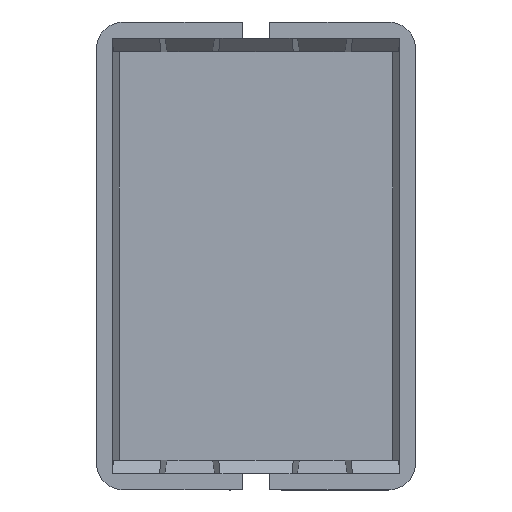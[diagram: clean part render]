
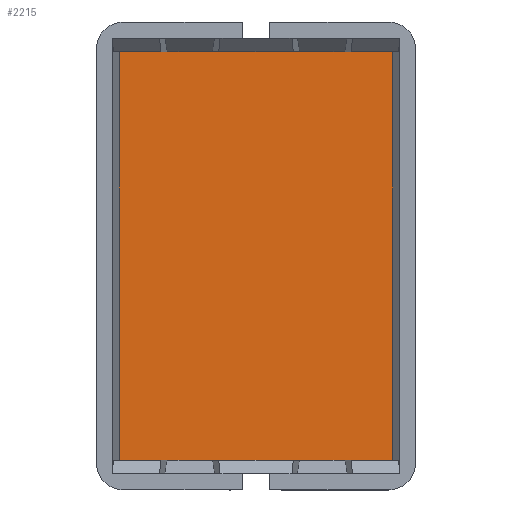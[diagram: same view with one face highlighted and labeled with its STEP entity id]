
A CAD part, top view. The second image highlights one B-rep face of the part: STEP entity #2215.
In plain terms, the highlighted planar face has unit normal (0, 0, 1).
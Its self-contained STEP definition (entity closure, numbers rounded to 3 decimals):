
#2057=CARTESIAN_POINT('',(6.6,-15.1,1.4));
#2058=VERTEX_POINT('',#2057);
#2067=CARTESIAN_POINT('',(3.2,-15.1,1.4));
#2068=VERTEX_POINT('',#2067);
#2069=CARTESIAN_POINT('',(6.6,-15.1,1.4));
#2070=DIRECTION('',(-1.0,0.0,0.0));
#2071=VECTOR('',#2070,3.4);
#2072=LINE('',#2069,#2071);
#2073=EDGE_CURVE('',#2058,#2068,#2072,.T.);
#2121=CARTESIAN_POINT('',(0.,0.,1.4));
#2122=DIRECTION('',(0.0,0.0,1.0));
#2123=DIRECTION('',(1.0,0.0,0.0));
#2124=AXIS2_PLACEMENT_3D('',#2121,#2122,#2123);
#2125=PLANE('',#2124);
#2126=ORIENTED_EDGE('',*,*,#2073,.F.);
#2127=CARTESIAN_POINT('',(10.1,-15.1,1.4));
#2128=VERTEX_POINT('',#2127);
#2129=CARTESIAN_POINT('',(6.6,-15.1,1.4));
#2130=DIRECTION('',(1.0,0.0,0.0));
#2131=VECTOR('',#2130,3.5);
#2132=LINE('',#2129,#2131);
#2133=EDGE_CURVE('',#2058,#2128,#2132,.T.);
#2134=ORIENTED_EDGE('',*,*,#2133,.T.);
#2135=CARTESIAN_POINT('',(10.1,15.1,1.4));
#2136=VERTEX_POINT('',#2135);
#2137=CARTESIAN_POINT('',(10.1,-15.1,1.4));
#2138=DIRECTION('',(0.0,1.0,0.0));
#2139=VECTOR('',#2138,30.2);
#2140=LINE('',#2137,#2139);
#2141=EDGE_CURVE('',#2128,#2136,#2140,.T.);
#2142=ORIENTED_EDGE('',*,*,#2141,.T.);
#2143=CARTESIAN_POINT('',(6.6,15.1,1.4));
#2144=VERTEX_POINT('',#2143);
#2145=CARTESIAN_POINT('',(10.1,15.1,1.4));
#2146=DIRECTION('',(-1.0,0.0,0.0));
#2147=VECTOR('',#2146,3.5);
#2148=LINE('',#2145,#2147);
#2149=EDGE_CURVE('',#2136,#2144,#2148,.T.);
#2150=ORIENTED_EDGE('',*,*,#2149,.T.);
#2151=CARTESIAN_POINT('',(3.2,15.1,1.4));
#2152=VERTEX_POINT('',#2151);
#2153=CARTESIAN_POINT('',(3.2,15.1,1.4));
#2154=DIRECTION('',(1.0,0.0,0.0));
#2155=VECTOR('',#2154,3.4);
#2156=LINE('',#2153,#2155);
#2157=EDGE_CURVE('',#2152,#2144,#2156,.T.);
#2158=ORIENTED_EDGE('',*,*,#2157,.F.);
#2159=CARTESIAN_POINT('',(-3.2,15.1,1.4));
#2160=VERTEX_POINT('',#2159);
#2161=CARTESIAN_POINT('',(3.2,15.1,1.4));
#2162=DIRECTION('',(-1.0,0.0,0.0));
#2163=VECTOR('',#2162,6.4);
#2164=LINE('',#2161,#2163);
#2165=EDGE_CURVE('',#2152,#2160,#2164,.T.);
#2166=ORIENTED_EDGE('',*,*,#2165,.T.);
#2167=CARTESIAN_POINT('',(-6.6,15.1,1.4));
#2168=VERTEX_POINT('',#2167);
#2169=CARTESIAN_POINT('',(-6.6,15.1,1.4));
#2170=DIRECTION('',(1.0,0.0,0.0));
#2171=VECTOR('',#2170,3.4);
#2172=LINE('',#2169,#2171);
#2173=EDGE_CURVE('',#2168,#2160,#2172,.T.);
#2174=ORIENTED_EDGE('',*,*,#2173,.F.);
#2175=CARTESIAN_POINT('',(-10.1,15.1,1.4));
#2176=VERTEX_POINT('',#2175);
#2177=CARTESIAN_POINT('',(-6.6,15.1,1.4));
#2178=DIRECTION('',(-1.0,0.0,0.0));
#2179=VECTOR('',#2178,3.5);
#2180=LINE('',#2177,#2179);
#2181=EDGE_CURVE('',#2168,#2176,#2180,.T.);
#2182=ORIENTED_EDGE('',*,*,#2181,.T.);
#2183=CARTESIAN_POINT('',(-10.1,-15.1,1.4));
#2184=VERTEX_POINT('',#2183);
#2185=CARTESIAN_POINT('',(-10.1,15.1,1.4));
#2186=DIRECTION('',(0.0,-1.0,0.0));
#2187=VECTOR('',#2186,30.2);
#2188=LINE('',#2185,#2187);
#2189=EDGE_CURVE('',#2176,#2184,#2188,.T.);
#2190=ORIENTED_EDGE('',*,*,#2189,.T.);
#2191=CARTESIAN_POINT('',(-6.6,-15.1,1.4));
#2192=VERTEX_POINT('',#2191);
#2193=CARTESIAN_POINT('',(-10.1,-15.1,1.4));
#2194=DIRECTION('',(1.0,0.0,0.0));
#2195=VECTOR('',#2194,3.5);
#2196=LINE('',#2193,#2195);
#2197=EDGE_CURVE('',#2184,#2192,#2196,.T.);
#2198=ORIENTED_EDGE('',*,*,#2197,.T.);
#2199=CARTESIAN_POINT('',(-3.2,-15.1,1.4));
#2200=VERTEX_POINT('',#2199);
#2201=CARTESIAN_POINT('',(-3.2,-15.1,1.4));
#2202=DIRECTION('',(-1.0,0.0,0.0));
#2203=VECTOR('',#2202,3.4);
#2204=LINE('',#2201,#2203);
#2205=EDGE_CURVE('',#2200,#2192,#2204,.T.);
#2206=ORIENTED_EDGE('',*,*,#2205,.F.);
#2207=CARTESIAN_POINT('',(-3.2,-15.1,1.4));
#2208=DIRECTION('',(1.0,0.0,0.0));
#2209=VECTOR('',#2208,6.4);
#2210=LINE('',#2207,#2209);
#2211=EDGE_CURVE('',#2200,#2068,#2210,.T.);
#2212=ORIENTED_EDGE('',*,*,#2211,.T.);
#2213=EDGE_LOOP('',(#2126,#2134,#2142,#2150,#2158,#2166,#2174,#2182,#2190,#2198,#2206,#2212));
#2214=FACE_OUTER_BOUND('',#2213,.T.);
#2215=ADVANCED_FACE('',(#2214),#2125,.T.);
